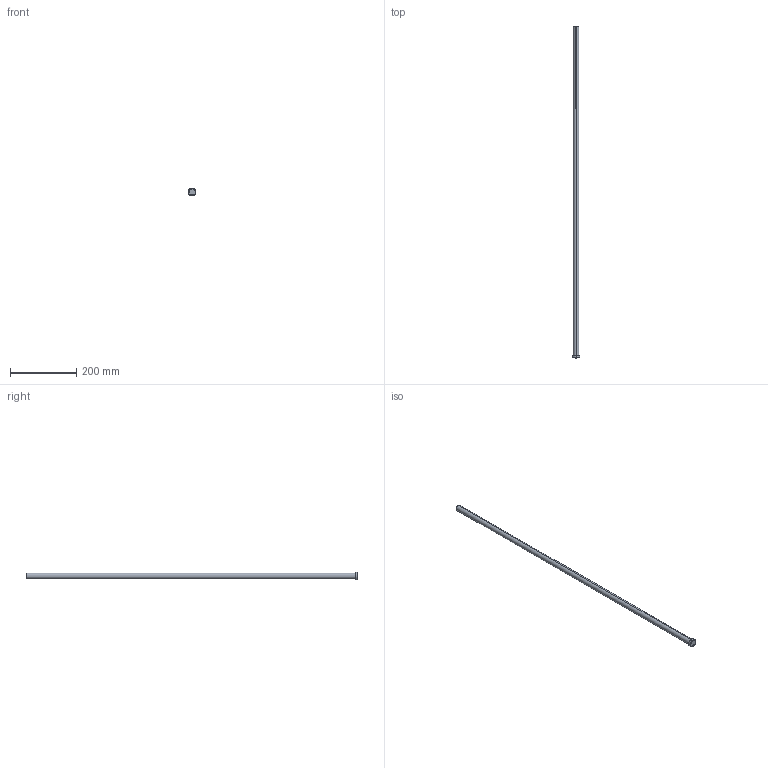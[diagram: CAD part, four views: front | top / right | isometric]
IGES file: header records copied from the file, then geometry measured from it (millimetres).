
Start section: SolidWorks IGES file using analytic representation for surfaces
Global section: file name: D:\Cleonir_particular\Matripeças\Pinos Extradores A DIN 1530\PA18,1000.IGS; native system: SolidWorks 2013; preprocessor: SolidWorks 2013; author: Cleonir; date: 130225.155409; units: millimetre
Bounding box: 24 x 1000 x 24 mm (x, y, z)
Surface area: 57620.6 mm2 (no closed solid volume)
Topology: 0 solids, 0 shells, 281 faces, 3124 edges, 3124 vertices
Faces by surface type: bspline 269, revolution 12
